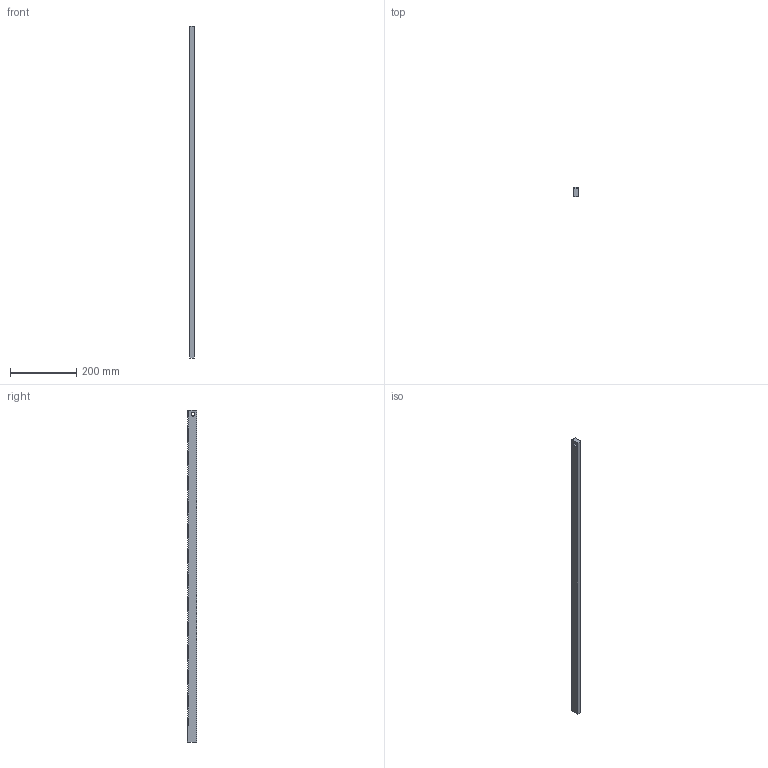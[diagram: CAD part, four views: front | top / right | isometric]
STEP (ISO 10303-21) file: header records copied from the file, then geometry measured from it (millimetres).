
FILE_DESCRIPTION (( 'STEP AP203' ), '1' );
FILE_NAME ('ZSZ 20.4208_61404.2597.08_STEP_20150226.STEP', '2015-02-26T10:14:21', ( '' ), ( '' ), 'SwSTEP 2.0', 'SolidWorks 2013', '' );
FILE_SCHEMA (( 'CONFIG_CONTROL_DESIGN' ));
Length unit declared in the file: millimetre
Products named in the file (1): ZSZ 20.4208_61404.2597.08_STEP_20150226
Bounding box: 15 x 28 x 1000 mm (x, y, z)
Volume: 383151.5 mm3; surface area: 94673 mm2
Topology: 1 solids, 1 shells, 922 faces, 2760 edges, 1840 vertices
Faces by surface type: plane 614, cylinder 308
Entity records: 30477 total; most frequent: CARTESIAN_POINT 7341, ORIENTED_EDGE 5520, DIRECTION 4012, EDGE_CURVE 2760, LINE 2142, VECTOR 2142, VERTEX_POINT 1840, AXIS2_PLACEMENT_3D 935
